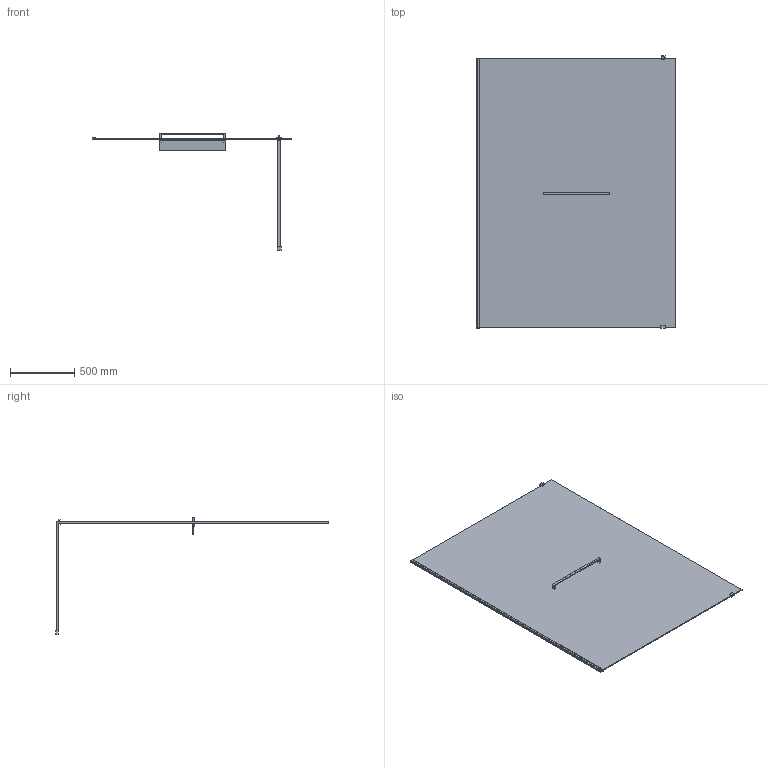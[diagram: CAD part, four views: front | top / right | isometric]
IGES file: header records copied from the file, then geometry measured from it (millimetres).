
Start section: SolidWorks IGES file using analytic representation for surfaces
Global section: file name: D:\Users\M.Szymanski\Desktop\Kabiny\PIII_ALTIIa\03. do przegrania\PIII_ALTIIa_160_z_relingiem_i_polka_K3D.IGS; native system: SolidWorks 2011; preprocessor: SolidWorks 2011; author: M.Szymanski; date: 181005.105031; units: millimetre
Bounding box: 1558.45 x 2128 x 914.13 mm (x, y, z)
Surface area: 6981824.5 mm2 (no closed solid volume)
Topology: 0 solids, 0 shells, 76 faces, 552 edges, 736 vertices
Faces by surface type: bspline 76
